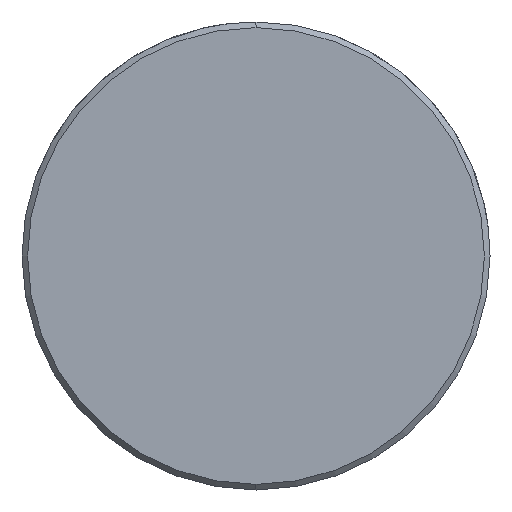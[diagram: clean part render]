
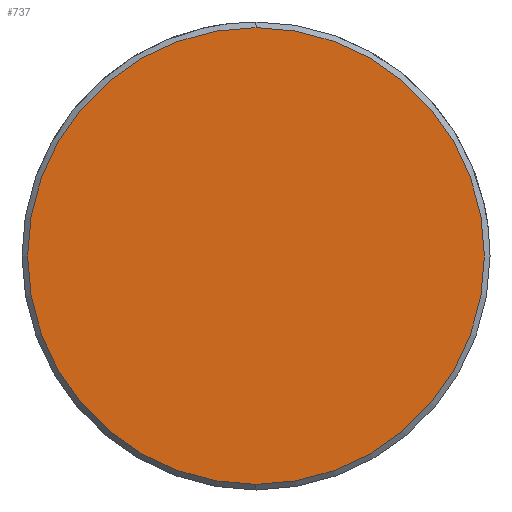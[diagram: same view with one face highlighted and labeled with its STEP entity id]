
A CAD part, left-side view. The second image highlights one B-rep face of the part: STEP entity #737.
In plain terms, the highlighted planar face has unit normal (-1, 0, 0).
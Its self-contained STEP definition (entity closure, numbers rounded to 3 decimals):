
#669=CARTESIAN_POINT('Vertex',(0.,0.,-12.2)) ;
#672=CARTESIAN_POINT('Axis2P3D Location',(0.,0.,0.)) ;
#676=CARTESIAN_POINT('Vertex',(0.,12.2,0.)) ;
#679=CARTESIAN_POINT('Axis2P3D Location',(0.,0.,0.)) ;
#683=CARTESIAN_POINT('Vertex',(0.,0.,12.2)) ;
#705=CARTESIAN_POINT('Axis2P3D Location',(0.,0.,0.)) ;
#709=CARTESIAN_POINT('Vertex',(0.,-12.2,0.)) ;
#712=CARTESIAN_POINT('Axis2P3D Location',(0.,0.,0.)) ;
#726=CARTESIAN_POINT('Axis2P3D Location',(0.,0.,0.)) ;
#673=DIRECTION('Axis2P3D Direction',(1.,0.,-0.)) ;
#680=DIRECTION('Axis2P3D Direction',(1.,0.,-0.)) ;
#706=DIRECTION('Axis2P3D Direction',(1.,0.,-0.)) ;
#713=DIRECTION('Axis2P3D Direction',(1.,0.,-0.)) ;
#727=DIRECTION('Axis2P3D Direction',(1.,0.,-0.)) ;
#728=DIRECTION('Axis2P3D XDirection',(-0.,0.,-1.)) ;
#674=AXIS2_PLACEMENT_3D('Circle Axis2P3D',#672,#673,$) ;
#681=AXIS2_PLACEMENT_3D('Circle Axis2P3D',#679,#680,$) ;
#707=AXIS2_PLACEMENT_3D('Circle Axis2P3D',#705,#706,$) ;
#714=AXIS2_PLACEMENT_3D('Circle Axis2P3D',#712,#713,$) ;
#729=AXIS2_PLACEMENT_3D('Plane Axis2P3D',#726,#727,#728) ;
#732=ORIENTED_EDGE('',*,*,#678,.F.) ;
#733=ORIENTED_EDGE('',*,*,#716,.F.) ;
#734=ORIENTED_EDGE('',*,*,#711,.F.) ;
#735=ORIENTED_EDGE('',*,*,#685,.F.) ;
#737=ADVANCED_FACE('549-22X80',(#736),#730,.F.) ;
#675=CIRCLE('generated circle',#674,12.2) ;
#682=CIRCLE('generated circle',#681,12.2) ;
#708=CIRCLE('generated circle',#707,12.2) ;
#715=CIRCLE('generated circle',#714,12.2) ;
#678=EDGE_CURVE('',#670,#677,#675,.T.) ;
#685=EDGE_CURVE('',#677,#684,#682,.T.) ;
#711=EDGE_CURVE('',#684,#710,#708,.T.) ;
#716=EDGE_CURVE('',#710,#670,#715,.T.) ;
#731=EDGE_LOOP('',(#732,#733,#734,#735)) ;
#736=FACE_OUTER_BOUND('',#731,.T.) ;
#730=PLANE('Plane',#729) ;
#670=VERTEX_POINT('',#669) ;
#677=VERTEX_POINT('',#676) ;
#684=VERTEX_POINT('',#683) ;
#710=VERTEX_POINT('',#709) ;
